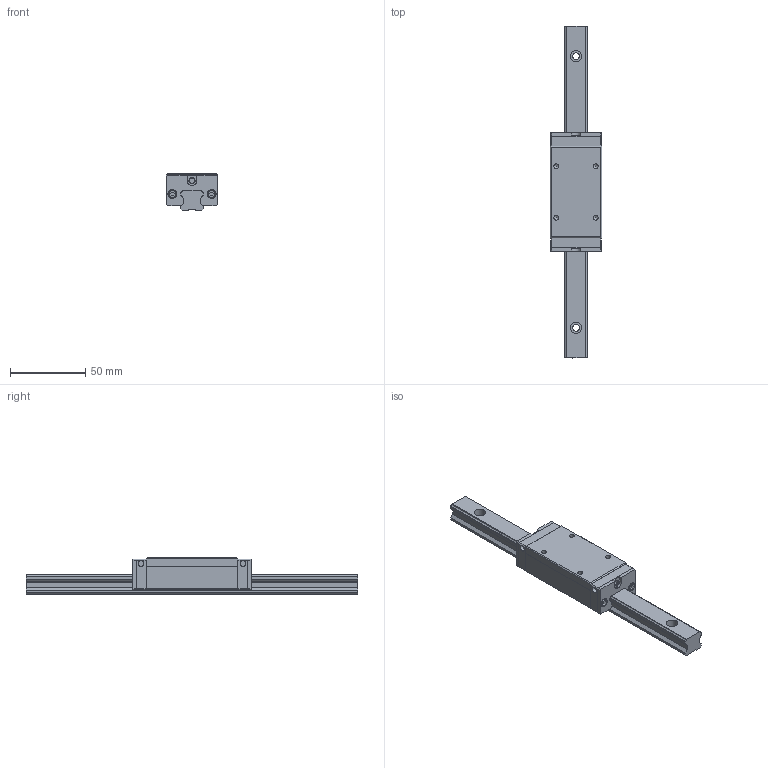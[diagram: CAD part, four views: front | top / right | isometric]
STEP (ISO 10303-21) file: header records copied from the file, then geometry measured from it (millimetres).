
FILE_DESCRIPTION( ( 'Unknown' ), '1' );
FILE_NAME( 'C:/Documents and Settings/c/官帕 拳搁/15/SBI 15 HLL.stp', 'Unknown', ( 'Unknown' ), ( 'Unknown' ), 'XStep 1.0', 'Unknown', ' ' );
FILE_SCHEMA( ( 'automotive_design' ) );
Length unit declared in the file: millimetre
Products named in the file (7): Assem1; SBI-15HLL BLOCK; RAIL
Bounding box: 34 x 220 x 24 mm (x, y, z)
Volume: 149035 mm3; surface area: 60624.3 mm2
Topology: 12 solids, 12 shells, 658 faces, 1750 edges, 1168 vertices
Faces by surface type: plane 524, cylinder 92, extrusion 26, cone 8, torus 8
Full cylindrical faces by diameter (mm): 3.242 x8, 3.4 x8, 3.5 x4, 3.818 x8, 4.1 x4, 4.5 x8, 5.5 x8, 6 x8, 7.5 x8
Entity records: 10796 total; most frequent: CARTESIAN_POINT 2164, ORIENTED_EDGE 1634, DIRECTION 1558, EDGE_CURVE 817, VECTOR 696, LINE 683, VERTEX_POINT 570, AXIS2_PLACEMENT_3D 431
